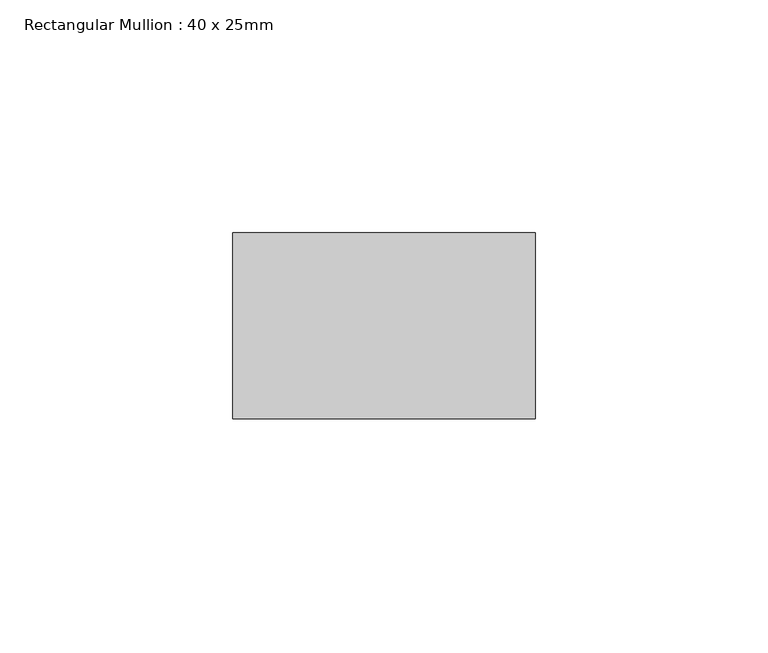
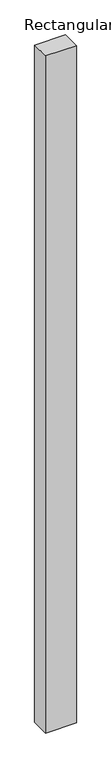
"""IFC4 building model written with IfcOpenShell, lengths in millimetres: member geometry, Rectangular Mullion : 40 x 25mm."""

from ifc_helpers import new_model, si_unit, frame, origin, place, context, project, spatial, polyline, outline, extrude, source, transform, mapped, element, save


def rectangular_mullion_40_x_25mm_417e4167(model_context):
    return source(origin(), model_context, "Body", "SweptSolid", [
        extrude(outline(polyline([(0.0, -20.0), (0.0, -60.0), (-65.0, -60.0), (-65.0, -20.0), (0.0, -20.0)])), frame((0.0, 0.0, -1515.0), z_axis=(0.0, 0.0, 1.0), x_axis=(1.0, 0.0, 0.0)), (0.0, 0.0, 1.0), 1515.0),
    ])


if __name__ == "__main__":
    model = new_model("IFC4")
    model_context = context("Model", 3, world=origin())
    ifc_project = project(units=[si_unit("LENGTHUNIT", "METRE", prefix="MILLI")], contexts=[model_context])
    site = spatial("IfcSite", under=ifc_project)
    building = spatial("IfcBuilding", under=site)
    placement = place(None, origin())
    rectangular_mullion_40_x_25mm_shape = rectangular_mullion_40_x_25mm_417e4167(model_context)
    element("IfcMember", 1, ObjectType="Rectangular Mullion : 40 x 25mm", at=placement, inside=building, context=model_context, shape_type="MappedRepresentation", body=[
        mapped(rectangular_mullion_40_x_25mm_shape, transform((0.0, 0.0, 0.0), x_axis=(1.0, 0.0, 0.0), y_axis=(0.0, 1.0, 0.0), z_axis=(0.0, 0.0, 1.0))),
    ])
    save(model, "model.ifc")
